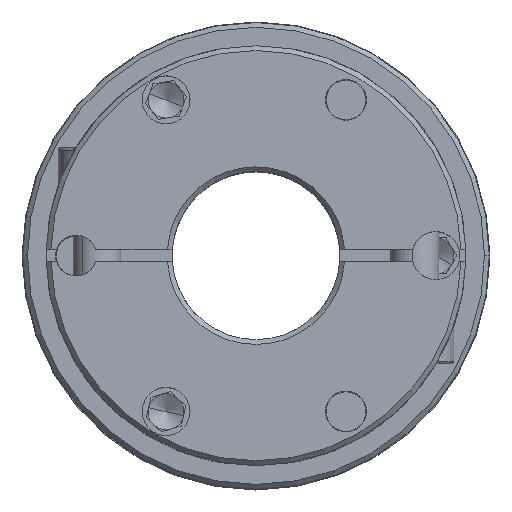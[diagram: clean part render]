
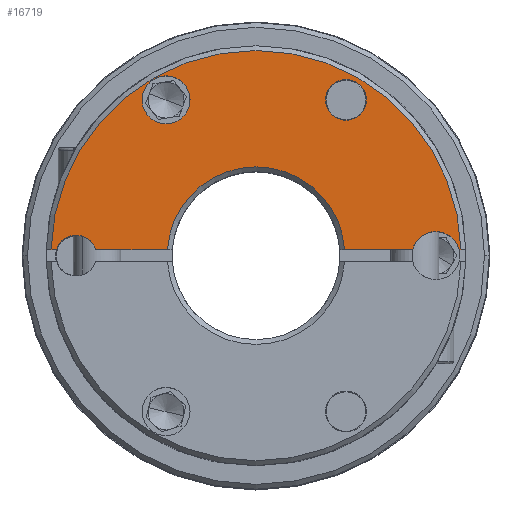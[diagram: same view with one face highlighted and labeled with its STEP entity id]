
A CAD part, top view. The second image highlights one B-rep face of the part: STEP entity #16719.
In plain terms, the highlighted planar face has unit normal (0, 0, 1).
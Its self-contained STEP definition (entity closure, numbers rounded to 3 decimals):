
#239 = DIRECTION ( 'NONE',  ( 1., 0., 0. ) ) ;
#297 = EDGE_CURVE ( 'NONE', #11460, #5829, #13963, .T. ) ;
#727 = ORIENTED_EDGE ( 'NONE', *, *, #11181, .T. ) ;
#746 = CIRCLE ( 'NONE', #7630, 34.2 ) ;
#1004 = CARTESIAN_POINT ( 'NONE',  ( 33.873, 1., 33.85 ) ) ;
#1132 = ORIENTED_EDGE ( 'NONE', *, *, #14143, .T. ) ;
#1135 = VERTEX_POINT ( 'NONE', #21124 ) ;
#1204 = CARTESIAN_POINT ( 'NONE',  ( -15., 25.981, 33.85 ) ) ;
#1278 = DIRECTION ( 'NONE',  ( 1., 0., 0. ) ) ;
#1563 = VERTEX_POINT ( 'NONE', #19957 ) ;
#1892 = VERTEX_POINT ( 'NONE', #17347 ) ;
#2798 = CARTESIAN_POINT ( 'NONE',  ( -14.766, 1., 33.85 ) ) ;
#2847 = EDGE_CURVE ( 'NONE', #5481, #5027, #17193, .T. ) ;
#2852 = CIRCLE ( 'NONE', #7277, 4. ) ;
#2907 = ORIENTED_EDGE ( 'NONE', *, *, #10119, .T. ) ;
#3486 = EDGE_CURVE ( 'NONE', #1892, #1563, #7251, .T. ) ;
#3604 = DIRECTION ( 'NONE',  ( -1., 0., 0. ) ) ;
#3780 = CARTESIAN_POINT ( 'NONE',  ( -39., 1., 33.85 ) ) ;
#3795 = CARTESIAN_POINT ( 'NONE',  ( 0., 0., 33.85 ) ) ;
#4237 = EDGE_LOOP ( 'NONE', ( #16947, #727, #17228, #2907, #14607, #4367, #7084, #7267 ) ) ;
#4284 = LINE ( 'NONE', #11068, #8745 ) ;
#4367 = ORIENTED_EDGE ( 'NONE', *, *, #297, .T. ) ;
#4468 = VERTEX_POINT ( 'NONE', #1004 ) ;
#4598 = AXIS2_PLACEMENT_3D ( 'NONE', #8465, #9660, #14608 ) ;
#4750 = EDGE_CURVE ( 'NONE', #4468, #5855, #18728, .T. ) ;
#5027 = VERTEX_POINT ( 'NONE', #14542 ) ;
#5060 = CARTESIAN_POINT ( 'NONE',  ( 0., 0., 33.85 ) ) ;
#5481 = VERTEX_POINT ( 'NONE', #8169 ) ;
#5497 = AXIS2_PLACEMENT_3D ( 'NONE', #11195, #13005, #19679 ) ;
#5638 = VECTOR ( 'NONE', #19858, 1000. ) ;
#5671 = AXIS2_PLACEMENT_3D ( 'NONE', #14964, #10020, #16576 ) ;
#5829 = VERTEX_POINT ( 'NONE', #6519 ) ;
#5855 = VERTEX_POINT ( 'NONE', #6419 ) ;
#5876 = AXIS2_PLACEMENT_3D ( 'NONE', #1204, #10891, #14330 ) ;
#5933 = CARTESIAN_POINT ( 'NONE',  ( 18.4, 25.981, 33.85 ) ) ;
#6419 = CARTESIAN_POINT ( 'NONE',  ( 34.185, 1., 33.85 ) ) ;
#6519 = CARTESIAN_POINT ( 'NONE',  ( 26.127, 1., 33.85 ) ) ;
#6530 = DIRECTION ( 'NONE',  ( 1., 0., 0. ) ) ;
#6746 = CARTESIAN_POINT ( 'NONE',  ( 30., 0., 33.85 ) ) ;
#6962 = FACE_BOUND ( 'NONE', #10159, .T. ) ;
#7084 = ORIENTED_EDGE ( 'NONE', *, *, #18500, .T. ) ;
#7251 = CIRCLE ( 'NONE', #5876, 4. ) ;
#7267 = ORIENTED_EDGE ( 'NONE', *, *, #4750, .T. ) ;
#7277 = AXIS2_PLACEMENT_3D ( 'NONE', #18766, #19099, #14262 ) ;
#7630 = AXIS2_PLACEMENT_3D ( 'NONE', #3795, #18223, #19952 ) ;
#7680 = CIRCLE ( 'NONE', #4598, 3.4 ) ;
#8021 = AXIS2_PLACEMENT_3D ( 'NONE', #5060, #11931, #8491 ) ;
#8169 = CARTESIAN_POINT ( 'NONE',  ( -33.25, 1., 33.85 ) ) ;
#8465 = CARTESIAN_POINT ( 'NONE',  ( 15., 25.981, 33.85 ) ) ;
#8491 = DIRECTION ( 'NONE',  ( 1., 0., 0. ) ) ;
#8745 = VECTOR ( 'NONE', #1278, 1000. ) ;
#9487 = CIRCLE ( 'NONE', #5671, 14.8 ) ;
#9660 = DIRECTION ( 'NONE',  ( 0., 0., -1. ) ) ;
#9892 = DIRECTION ( 'NONE',  ( 0., 0., -1. ) ) ;
#10020 = DIRECTION ( 'NONE',  ( 0., 0., -1. ) ) ;
#10072 = VERTEX_POINT ( 'NONE', #21202 ) ;
#10119 = EDGE_CURVE ( 'NONE', #5027, #11310, #12774, .T. ) ;
#10159 = EDGE_LOOP ( 'NONE', ( #10748, #1132 ) ) ;
#10601 = EDGE_CURVE ( 'NONE', #5855, #10072, #746, .T. ) ;
#10637 = EDGE_CURVE ( 'NONE', #1135, #18900, #18621, .T. ) ;
#10748 = ORIENTED_EDGE ( 'NONE', *, *, #10637, .T. ) ;
#10891 = DIRECTION ( 'NONE',  ( 0., 0., -1. ) ) ;
#10942 = ORIENTED_EDGE ( 'NONE', *, *, #13264, .T. ) ;
#11068 = CARTESIAN_POINT ( 'NONE',  ( -39., 1., 33.85 ) ) ;
#11181 = EDGE_CURVE ( 'NONE', #10072, #5481, #4284, .T. ) ;
#11195 = CARTESIAN_POINT ( 'NONE',  ( -30., 0., 33.85 ) ) ;
#11201 = CARTESIAN_POINT ( 'NONE',  ( 14.766, 1., 33.85 ) ) ;
#11310 = VERTEX_POINT ( 'NONE', #2798 ) ;
#11460 = VERTEX_POINT ( 'NONE', #11201 ) ;
#11619 = DIRECTION ( 'NONE',  ( -1., 0., 0. ) ) ;
#11778 = CARTESIAN_POINT ( 'NONE',  ( 15., 25.981, 33.85 ) ) ;
#11931 = DIRECTION ( 'NONE',  ( 0., 0., 1. ) ) ;
#12774 = LINE ( 'NONE', #19342, #19363 ) ;
#13005 = DIRECTION ( 'NONE',  ( 0., 0., -1. ) ) ;
#13264 = EDGE_CURVE ( 'NONE', #1563, #1892, #2852, .T. ) ;
#13963 = LINE ( 'NONE', #20542, #5638 ) ;
#14143 = EDGE_CURVE ( 'NONE', #18900, #1135, #7680, .T. ) ;
#14262 = DIRECTION ( 'NONE',  ( 0.5, -0.866, 0. ) ) ;
#14330 = DIRECTION ( 'NONE',  ( 0.5, -0.866, 0. ) ) ;
#14542 = CARTESIAN_POINT ( 'NONE',  ( -26.75, 1., 33.85 ) ) ;
#14607 = ORIENTED_EDGE ( 'NONE', *, *, #21182, .T. ) ;
#14608 = DIRECTION ( 'NONE',  ( -1., 0., 0. ) ) ;
#14697 = CIRCLE ( 'NONE', #16740, 4. ) ;
#14840 = PLANE ( 'NONE',  #8021 ) ;
#14951 = FACE_BOUND ( 'NONE', #21031, .T. ) ;
#14964 = CARTESIAN_POINT ( 'NONE',  ( 0., 0., 33.85 ) ) ;
#15218 = VECTOR ( 'NONE', #239, 1000. ) ;
#16461 = FACE_OUTER_BOUND ( 'NONE', #4237, .T. ) ;
#16576 = DIRECTION ( 'NONE',  ( 1., 0., 0. ) ) ;
#16719 = ADVANCED_FACE ( 'NONE', ( #14951, #6962, #16461 ), #14840, .T. ) ;
#16740 = AXIS2_PLACEMENT_3D ( 'NONE', #6746, #9892, #11619 ) ;
#16945 = ORIENTED_EDGE ( 'NONE', *, *, #3486, .T. ) ;
#16947 = ORIENTED_EDGE ( 'NONE', *, *, #10601, .T. ) ;
#17193 = CIRCLE ( 'NONE', #5497, 3.4 ) ;
#17228 = ORIENTED_EDGE ( 'NONE', *, *, #2847, .T. ) ;
#17347 = CARTESIAN_POINT ( 'NONE',  ( -11., 25.981, 33.85 ) ) ;
#18223 = DIRECTION ( 'NONE',  ( 0., 0., 1. ) ) ;
#18286 = AXIS2_PLACEMENT_3D ( 'NONE', #11778, #18333, #3604 ) ;
#18333 = DIRECTION ( 'NONE',  ( 0., 0., -1. ) ) ;
#18500 = EDGE_CURVE ( 'NONE', #5829, #4468, #14697, .T. ) ;
#18621 = CIRCLE ( 'NONE', #18286, 3.4 ) ;
#18728 = LINE ( 'NONE', #3780, #15218 ) ;
#18766 = CARTESIAN_POINT ( 'NONE',  ( -15., 25.981, 33.85 ) ) ;
#18900 = VERTEX_POINT ( 'NONE', #5933 ) ;
#19099 = DIRECTION ( 'NONE',  ( 0., 0., -1. ) ) ;
#19342 = CARTESIAN_POINT ( 'NONE',  ( -39., 1., 33.85 ) ) ;
#19363 = VECTOR ( 'NONE', #6530, 1000. ) ;
#19679 = DIRECTION ( 'NONE',  ( -1., 0., 0. ) ) ;
#19858 = DIRECTION ( 'NONE',  ( 1., 0., 0. ) ) ;
#19952 = DIRECTION ( 'NONE',  ( 1., 0., 0. ) ) ;
#19957 = CARTESIAN_POINT ( 'NONE',  ( -19., 25.981, 33.85 ) ) ;
#20542 = CARTESIAN_POINT ( 'NONE',  ( -39., 1., 33.85 ) ) ;
#21031 = EDGE_LOOP ( 'NONE', ( #10942, #16945 ) ) ;
#21124 = CARTESIAN_POINT ( 'NONE',  ( 11.6, 25.981, 33.85 ) ) ;
#21182 = EDGE_CURVE ( 'NONE', #11310, #11460, #9487, .T. ) ;
#21202 = CARTESIAN_POINT ( 'NONE',  ( -34.185, 1., 33.85 ) ) ;
